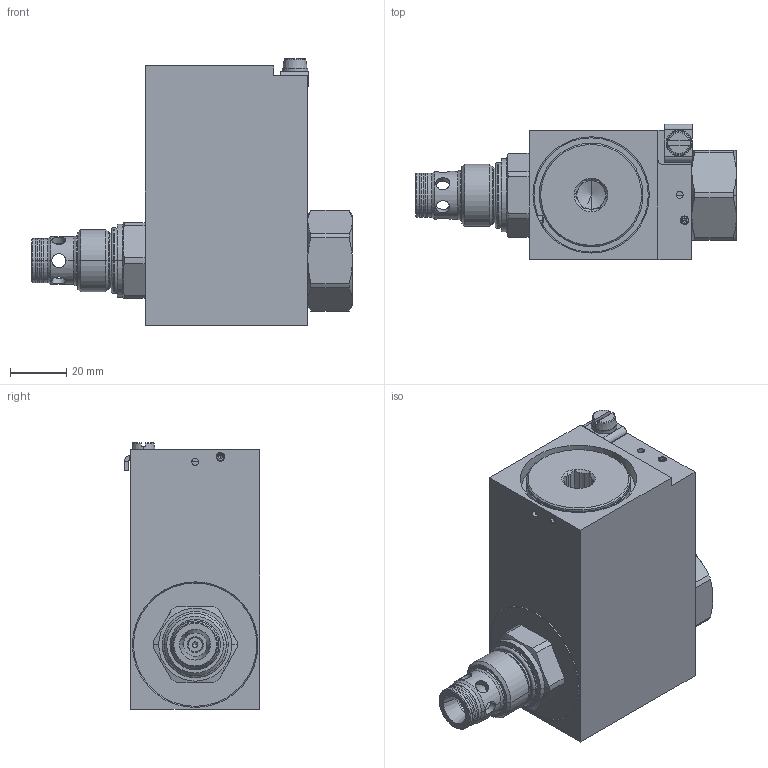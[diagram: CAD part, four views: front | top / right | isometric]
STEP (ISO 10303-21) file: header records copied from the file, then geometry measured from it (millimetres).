
FILE_DESCRIPTION((''),'2;1');
FILE_NAME('1000405873_ASM','2023-10-04T',('l.soukupova'),(''),'PRO/ENGINEER BY PARAMETRIC TECHNOLOGY CORPORATION, 2015440','PRO/ENGINEER BY PARAMETRIC TECHNOLOGY CORPORATION, 2015440','');
FILE_SCHEMA(('AUTOMOTIVE_DESIGN { 1 0 10303 214 1 1 1 1 }'));
Length unit declared in the file: millimetre
Products named in the file (24): 195600; 944_0630_SEST; 944_0640; 936_4580; 249320_ASM; 1000405885; OR2101940_201439_AF0; SSA01580134031C0_320010_AF0; PRT0013; PRT0014; PRT0015; PRT0016; PRT0017; PRT0018; PRT0019; PRT0020; ASM0008_ASM; ASM0007_ASM; PRT0010; PRT0011; PRT0012; ASM0006_ASM; ASM0005_ASM; 1000405873_ASM
Assembly tree (23 placements, depth 4):
  1000405873_ASM
    249320_ASM
      195600
      944_0630_SEST
      944_0640
      936_4580
    1000405885
    OR2101940_201439_AF0
    SSA01580134031C0_320010_AF0
    ASM0007_ASM
      ASM0008_ASM
        PRT0013
        PRT0014
        PRT0015
        PRT0016
        PRT0017
        PRT0018
        PRT0019
        PRT0020
    ASM0005_ASM
      ASM0006_ASM
        PRT0010
        PRT0011
        PRT0012
Bounding box: 114.5 x 48.25 x 95 mm (x, y, z)
Volume: 219598.2 mm3; surface area: 64583.7 mm2
Topology: 18 solids, 22 shells, 710 faces, 1851 edges, 1264 vertices
Faces by surface type: plane 297, cylinder 223, cone 128, torus 58, bspline 4
Entity records: 34317 total; most frequent: CARTESIAN_POINT 6215, DIRECTION 4190, ORIENTED_EDGE 3534, PRESENTATION_STYLE_ASSIGNMENT 2182, EDGE_CURVE 1775, STYLED_ITEM 1735, CURVE_STYLE 1715, AXIS2_PLACEMENT_3D 1623
